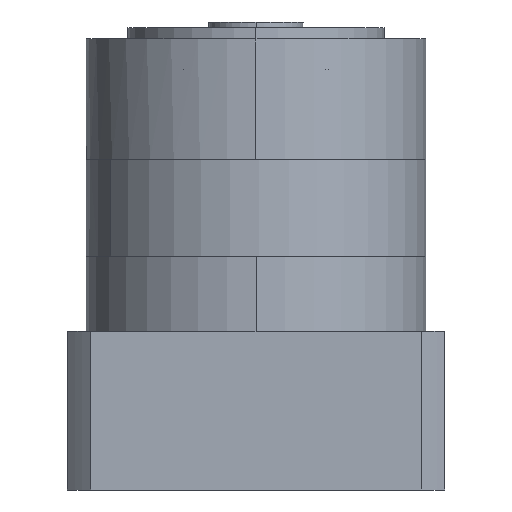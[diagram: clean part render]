
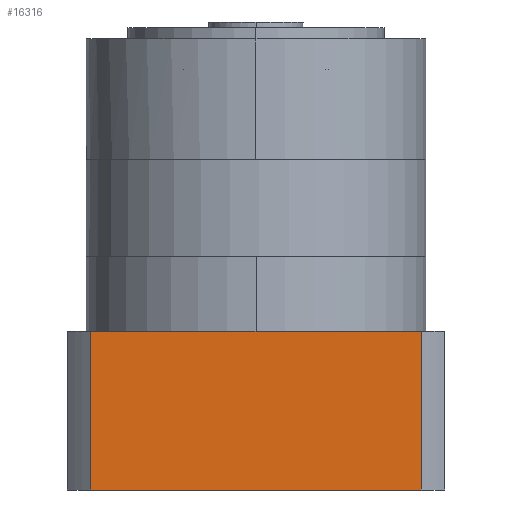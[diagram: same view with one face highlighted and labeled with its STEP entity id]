
A CAD part, left-side view. The second image highlights one B-rep face of the part: STEP entity #16316.
In plain terms, the highlighted planar face has unit normal (-1, 0, 0) as drawn and (0, -1, 0) by its records, which use the part's own axes.
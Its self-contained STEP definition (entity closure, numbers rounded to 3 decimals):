
#2038 = AXIS2_PLACEMENT_3D ( 'NONE', #19464, #19763, #43898 ) ;
#5392 = VECTOR ( 'NONE', #37641, 1000. ) ;
#5408 = ORIENTED_EDGE ( 'NONE', *, *, #44286, .T. ) ;
#6923 = EDGE_CURVE ( 'NONE', #23883, #31396, #11787, .T. ) ;
#7317 = ORIENTED_EDGE ( 'NONE', *, *, #6923, .T. ) ;
#7414 = FACE_OUTER_BOUND ( 'NONE', #44027, .T. ) ;
#9949 = DIRECTION ( 'NONE',  ( -1., 0., 0. ) ) ;
#9983 = CARTESIAN_POINT ( 'NONE',  ( -43.843, -50., 0. ) ) ;
#11570 = ORIENTED_EDGE ( 'NONE', *, *, #35406, .T. ) ;
#11787 = LINE ( 'NONE', #41169, #27981 ) ;
#12029 = ORIENTED_EDGE ( 'NONE', *, *, #38460, .F. ) ;
#15523 = VECTOR ( 'NONE', #20099, 1000. ) ;
#15648 = LINE ( 'NONE', #9983, #5392 ) ;
#16316 = ADVANCED_FACE ( 'NONE', ( #7414 ), #40452, .T. ) ;
#16594 = CARTESIAN_POINT ( 'NONE',  ( 43.843, -50., 0. ) ) ;
#19464 = CARTESIAN_POINT ( 'NONE',  ( 50., -50., 0. ) ) ;
#19763 = DIRECTION ( 'NONE',  ( 0., -1., 0. ) ) ;
#20099 = DIRECTION ( 'NONE',  ( 0., 0., 1. ) ) ;
#20662 = CARTESIAN_POINT ( 'NONE',  ( -43.843, -50., -3. ) ) ;
#23080 = CARTESIAN_POINT ( 'NONE',  ( -43.843, -50., -45. ) ) ;
#23883 = VERTEX_POINT ( 'NONE', #23080 ) ;
#25018 = VECTOR ( 'NONE', #9949, 1000. ) ;
#26225 = VERTEX_POINT ( 'NONE', #20662 ) ;
#27981 = VECTOR ( 'NONE', #41663, 1000. ) ;
#31396 = VERTEX_POINT ( 'NONE', #42305 ) ;
#32835 = LINE ( 'NONE', #16594, #15523 ) ;
#34349 = VERTEX_POINT ( 'NONE', #39740 ) ;
#34577 = CARTESIAN_POINT ( 'NONE',  ( 0., -50., -3. ) ) ;
#35406 = EDGE_CURVE ( 'NONE', #34349, #26225, #42349, .T. ) ;
#37641 = DIRECTION ( 'NONE',  ( 0., 0., 1. ) ) ;
#38460 = EDGE_CURVE ( 'NONE', #23883, #26225, #15648, .T. ) ;
#39740 = CARTESIAN_POINT ( 'NONE',  ( 43.843, -50., -3. ) ) ;
#40452 = PLANE ( 'NONE',  #2038 ) ;
#41169 = CARTESIAN_POINT ( 'NONE',  ( 50., -50., -45. ) ) ;
#41663 = DIRECTION ( 'NONE',  ( 1., 0., 0. ) ) ;
#42305 = CARTESIAN_POINT ( 'NONE',  ( 43.843, -50., -45. ) ) ;
#42349 = LINE ( 'NONE', #34577, #25018 ) ;
#43898 = DIRECTION ( 'NONE',  ( 0., 0., -1. ) ) ;
#44027 = EDGE_LOOP ( 'NONE', ( #12029, #7317, #5408, #11570 ) ) ;
#44286 = EDGE_CURVE ( 'NONE', #31396, #34349, #32835, .T. ) ;
